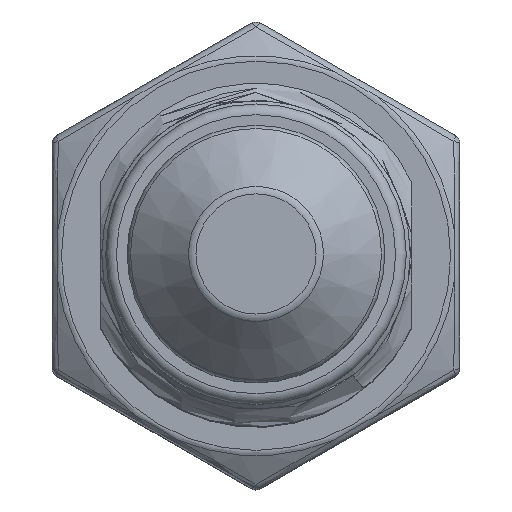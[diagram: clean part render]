
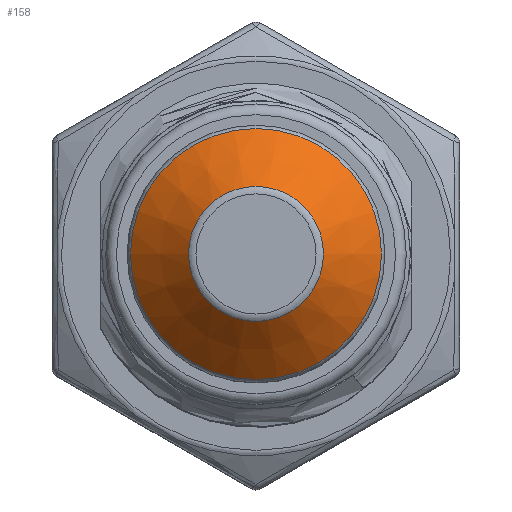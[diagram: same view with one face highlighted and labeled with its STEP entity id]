
A CAD part, top view. The second image highlights one B-rep face of the part: STEP entity #158.
In plain terms, the highlighted conical face has half-angle 45.971 degrees and reference radius 3 mm.
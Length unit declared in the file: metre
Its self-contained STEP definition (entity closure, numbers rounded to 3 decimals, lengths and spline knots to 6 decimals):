
#158=ADVANCED_FACE('',(#378,#379),#380,.T.);
#378=FACE_BOUND('',#834,.T.);
#379=FACE_OUTER_BOUND('',#835,.T.);
#380=CONICAL_SURFACE('',#836,0.003,0.802);
#834=EDGE_LOOP('',(#6456));
#835=EDGE_LOOP('',(#6457));
#836=AXIS2_PLACEMENT_3D('',#6458,#6459,#6460);
#6456=ORIENTED_EDGE('',*,*,#7958,.T.);
#6457=ORIENTED_EDGE('',*,*,#7957,.T.);
#6458=CARTESIAN_POINT('',(0.0,0.0,0.007));
#6459=DIRECTION('',(-0.0,0.0,-1.0));
#6460=DIRECTION('',(-1.0,0.0,0.0));
#7957=EDGE_CURVE('',#8436,#8436,#8437,.F.);
#7958=EDGE_CURVE('',#8438,#8438,#8439,.F.);
#8436=VERTEX_POINT('',#9216);
#8437=CIRCLE('',#9217,0.005848);
#8438=VERTEX_POINT('',#9218);
#8439=CIRCLE('',#9219,0.003145);
#9216=CARTESIAN_POINT('',(-0.005848,0.0,0.004247));
#9217=AXIS2_PLACEMENT_3D('',#15069,#15070,#15071);
#9218=CARTESIAN_POINT('',(0.003145,0.0,0.006859));
#9219=AXIS2_PLACEMENT_3D('',#15072,#15073,#15074);
#15069=CARTESIAN_POINT('',(0.0,0.0,0.004247));
#15070=DIRECTION('',(0.0,0.0,-1.0));
#15071=DIRECTION('',(-1.0,0.0,0.0));
#15072=CARTESIAN_POINT('',(0.0,0.0,0.006859));
#15073=DIRECTION('',(0.0,0.0,1.0));
#15074=DIRECTION('',(1.0,0.0,0.0));
